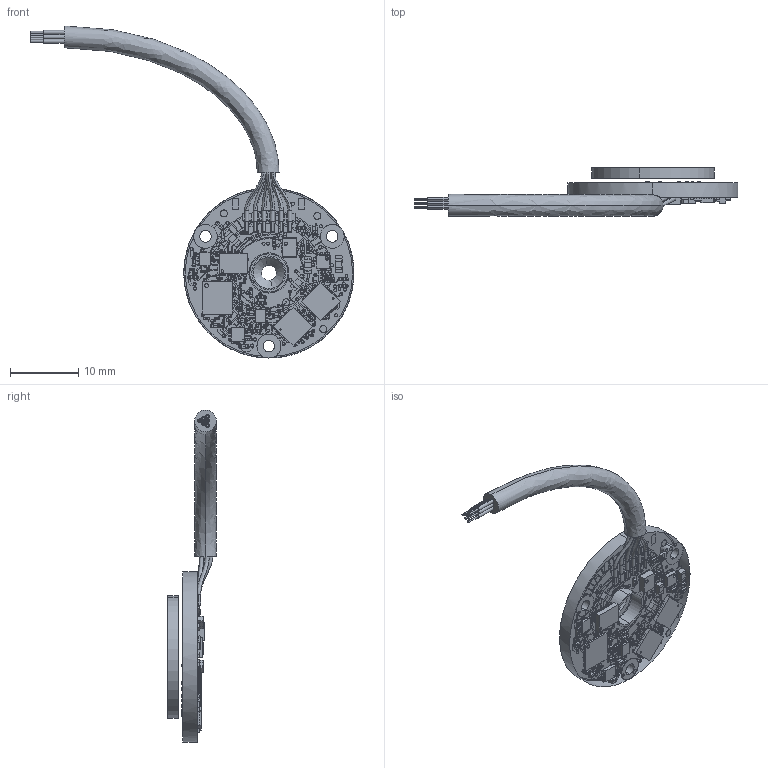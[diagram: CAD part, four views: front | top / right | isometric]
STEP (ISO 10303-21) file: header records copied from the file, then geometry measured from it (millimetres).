
FILE_DESCRIPTION (( 'STEP AP214' ), '1' );
FILE_NAME ('VLP-25 16-3 assy.STEP', '2024-09-02T13:46:22', ( '' ), ( '' ), 'SwSTEP 2.0', 'SolidWorks 2022', '' );
FILE_SCHEMA (( 'AUTOMOTIVE_DESIGN' ));
Length unit declared in the file: millimetre
Products named in the file (6): VLP-25 cable_Flying leads; EA-00557_VLP-25; PB-00557-Components_VLP (No connector); VLP-25 Tranceiver_PB-00557; VLP-25 16-3 assy; VLP-25 Rotor_PB-00556
Assembly tree (5 placements, depth 3):
  VLP-25 16-3 assy
    EA-00557_VLP-25
      VLP-25 Tranceiver_PB-00557
      PB-00557-Components_VLP (No connector)
    VLP-25 Rotor_PB-00556
    VLP-25 cable_Flying leads
Bounding box: 47.6 x 7.17 x 48.8 mm (x, y, z)
Volume: 1735.9 mm3; surface area: 2993.5 mm2
Topology: 15 solids, 896 shells, 7046 faces, 19057 edges, 13567 vertices
Faces by surface type: plane 4507, cylinder 1195, bspline 1114, sphere 224, torus 4, cone 2
Entity records: 361701 total; most frequent: CARTESIAN_POINT 116049, ORIENTED_EDGE 34099, DIRECTION 29222, EDGE_CURVE 18641, VERTEX_POINT 13375, LINE 12222, VECTOR 12222, AXIS2_PLACEMENT_3D 8500
